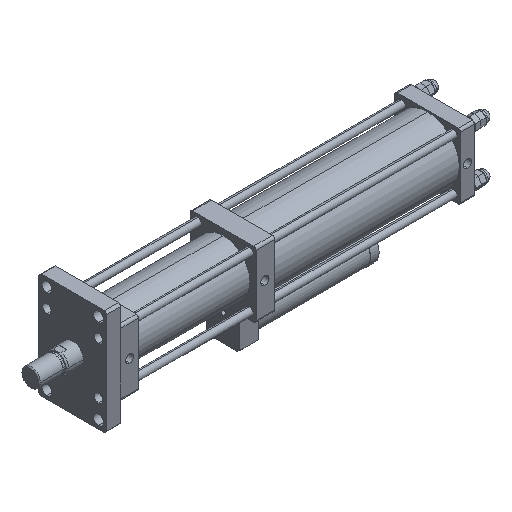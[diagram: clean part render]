
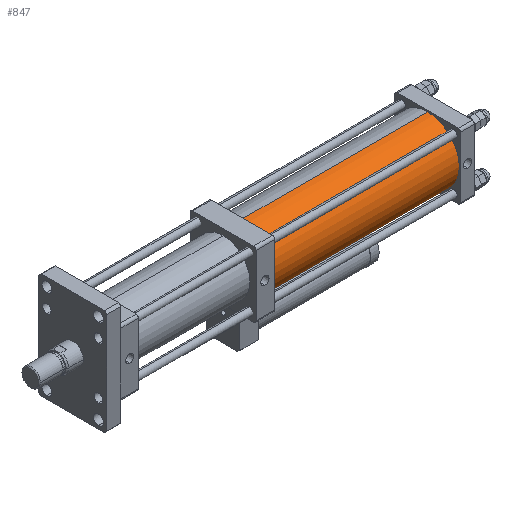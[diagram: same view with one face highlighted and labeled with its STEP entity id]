
A CAD part, isometric view. The second image highlights one B-rep face of the part: STEP entity #847.
In plain terms, the highlighted cylindrical face has radius 67.5 mm (diameter 135 mm), a partial arc.
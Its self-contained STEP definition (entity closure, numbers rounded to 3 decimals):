
#715 = ORIENTED_EDGE ( 'NONE', *, *, #10016, .T. ) ;
#847 = ADVANCED_FACE ( 'NONE', ( #2877 ), #2864, .T. ) ;
#1654 = DIRECTION ( 'NONE',  ( 0., 0., -1. ) ) ;
#1956 = DIRECTION ( 'NONE',  ( 1., 0., 0. ) ) ;
#1998 = CARTESIAN_POINT ( 'NONE',  ( 845., 0., 0. ) ) ;
#2315 = CARTESIAN_POINT ( 'NONE',  ( 845., 0., -67.5 ) ) ;
#2446 = VECTOR ( 'NONE', #5977, 1000. ) ;
#2505 = LINE ( 'NONE', #7926, #2446 ) ;
#2822 = AXIS2_PLACEMENT_3D ( 'NONE', #3272, #4080, #4032 ) ;
#2858 = CARTESIAN_POINT ( 'NONE',  ( 450., 0., 67.5 ) ) ;
#2864 = CYLINDRICAL_SURFACE ( 'NONE', #2822, 67.5 ) ;
#2877 = FACE_OUTER_BOUND ( 'NONE', #11027, .T. ) ;
#3186 = AXIS2_PLACEMENT_3D ( 'NONE', #1998, #1956, #1654 ) ;
#3272 = CARTESIAN_POINT ( 'NONE',  ( 845., 0., 0. ) ) ;
#4032 = DIRECTION ( 'NONE',  ( 0., 0., 1. ) ) ;
#4080 = DIRECTION ( 'NONE',  ( -1., 0., 0. ) ) ;
#4372 = CIRCLE ( 'NONE', #6437, 67.5 ) ;
#5409 = CARTESIAN_POINT ( 'NONE',  ( 450., 0., 0. ) ) ;
#5434 = CIRCLE ( 'NONE', #3186, 67.5 ) ;
#5977 = DIRECTION ( 'NONE',  ( -1., 0., 0. ) ) ;
#6419 = DIRECTION ( 'NONE',  ( 0., 0., -1. ) ) ;
#6437 = AXIS2_PLACEMENT_3D ( 'NONE', #5409, #12258, #6419 ) ;
#7198 = VERTEX_POINT ( 'NONE', #2858 ) ;
#7236 = EDGE_CURVE ( 'NONE', #9065, #8213, #5434, .T. ) ;
#7532 = CARTESIAN_POINT ( 'NONE',  ( 845., 0., 67.5 ) ) ;
#7926 = CARTESIAN_POINT ( 'NONE',  ( 845., 0., -67.5 ) ) ;
#7965 = ORIENTED_EDGE ( 'NONE', *, *, #8737, .F. ) ;
#8213 = VERTEX_POINT ( 'NONE', #2315 ) ;
#8433 = CARTESIAN_POINT ( 'NONE',  ( 450., 0., -67.5 ) ) ;
#8737 = EDGE_CURVE ( 'NONE', #8213, #11548, #2505, .T. ) ;
#9065 = VERTEX_POINT ( 'NONE', #9762 ) ;
#9525 = DIRECTION ( 'NONE',  ( -1., 0., 0. ) ) ;
#9762 = CARTESIAN_POINT ( 'NONE',  ( 845., 0., 67.5 ) ) ;
#10016 = EDGE_CURVE ( 'NONE', #9065, #7198, #12056, .T. ) ;
#10389 = ORIENTED_EDGE ( 'NONE', *, *, #11831, .T. ) ;
#11027 = EDGE_LOOP ( 'NONE', ( #7965, #12425, #715, #10389 ) ) ;
#11548 = VERTEX_POINT ( 'NONE', #8433 ) ;
#11831 = EDGE_CURVE ( 'NONE', #7198, #11548, #4372, .T. ) ;
#12044 = VECTOR ( 'NONE', #9525, 1000. ) ;
#12056 = LINE ( 'NONE', #7532, #12044 ) ;
#12258 = DIRECTION ( 'NONE',  ( 1., 0., 0. ) ) ;
#12425 = ORIENTED_EDGE ( 'NONE', *, *, #7236, .F. ) ;
